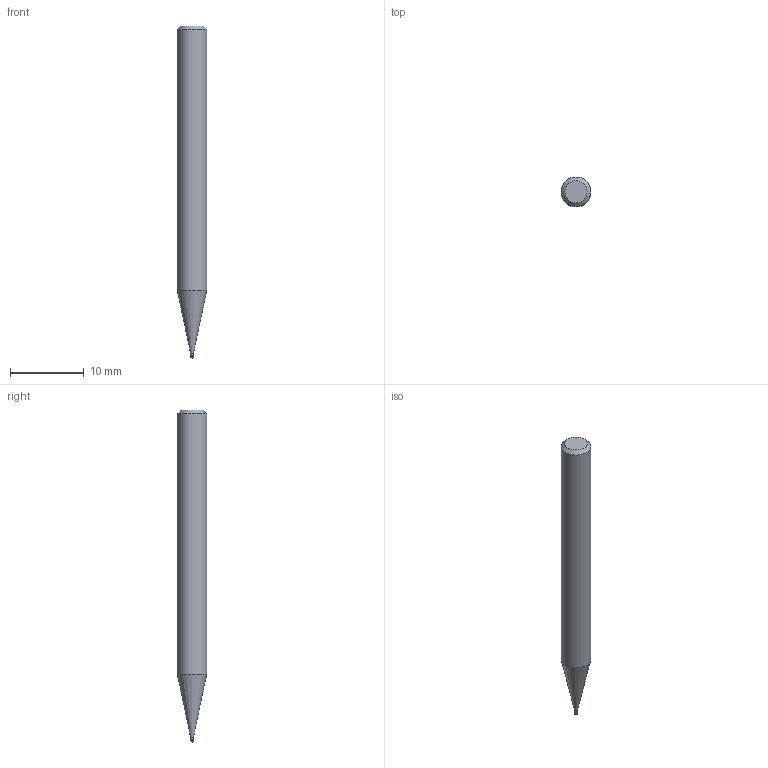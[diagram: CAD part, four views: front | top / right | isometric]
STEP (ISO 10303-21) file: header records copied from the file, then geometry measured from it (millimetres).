
FILE_DESCRIPTION((''),'2;1');
FILE_NAME('C:\Users\nsx150\AppData\Local\Temp\Mastercam 2021\ARV7HD45SN\TEMP.step','2023-06-13T16:32:44',(''),(''),'STEP Write','Mastercam 2021 ... CNC Software, Inc.','');
FILE_SCHEMA(('AUTOMOTIVE_DESIGN'));
Length unit declared in the file: millimetre
Products named in the file (1): None
Bounding box: 4 x 4 x 45 mm (x, y, z)
Volume: 488 mm3; surface area: 519.5 mm2
Topology: 2 solids, 2 shells, 9 faces, 14 edges, 8 vertices
Faces by surface type: plane 3, cylinder 3, cone 2, sphere 1
Full cylindrical faces by diameter (mm): 0.37 x1, 0.4 x1, 4 x1
Entity records: 211 total; most frequent: DIRECTION 36, CARTESIAN_POINT 25, AXIS2_PLACEMENT_3D 18, ORIENTED_EDGE 14, EDGE_LOOP 14, STYLED_ITEM 12, ADVANCED_FACE 9, FACE_BOUND 8
